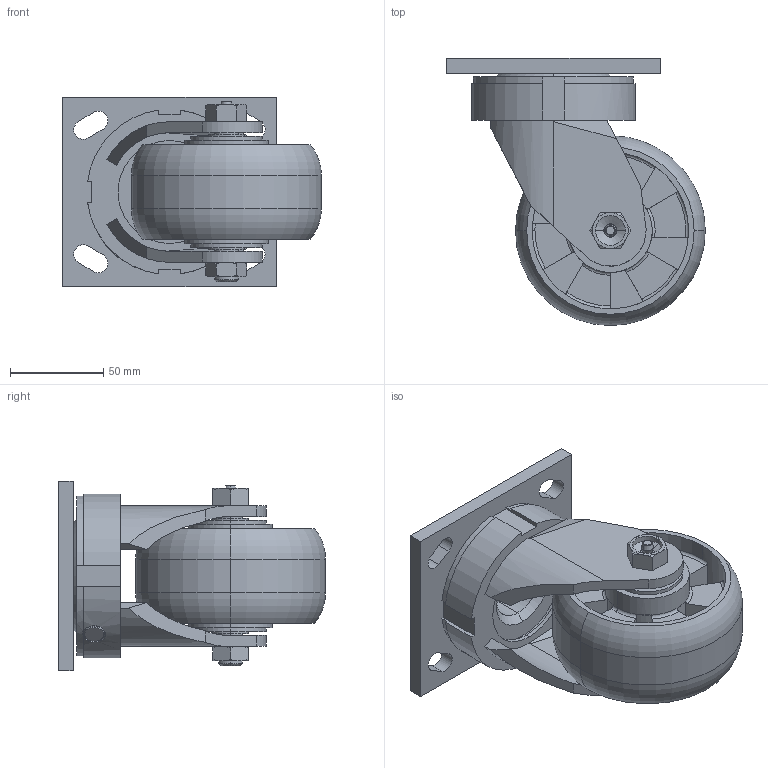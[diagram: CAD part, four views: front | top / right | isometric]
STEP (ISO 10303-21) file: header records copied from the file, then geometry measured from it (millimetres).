
FILE_DESCRIPTION (( 'STEP AP203' ), '1' );
FILE_NAME ('4寸抗冲击不带刹车.STEP', '2023-03-06T06:03:55', ( 'amidn' ), ( '' ), 'SwSTEP 2.0', 'SolidWorks 2018', '' );
FILE_SCHEMA (( 'CONFIG_CONTROL_DESIGN' ));
Length unit declared in the file: millimetre
Products named in the file (9): 4寸抗冲击不带刹车; _50116.03^4.04189.539(2)_4.04189.539; _52000.08^4.04189.539(2)_4.04189.539; _5.00004.539 (T)^4.04189.539(2)_4.04189.539; _SK-9905X78-4-F^4.04189.539(2)_4.04189.539; _55000.23^4.04189.539(2)_4.04189.539; _05953.76(2.96)^4.04189.539(2)_4.04189.539; _SK-9905X63-1P^4.04189.539(2)_4.04189.539; 4.04189.539(2)^4.04189.539
Assembly tree (9 placements, depth 3):
  4寸抗冲击不带刹车
    4.04189.539(2)^4.04189.539
      _SK-9905X63-1P^4.04189.539(2)_4.04189.539
      _SK-9905X78-4-F^4.04189.539(2)_4.04189.539
      _05953.76(2.96)^4.04189.539(2)_4.04189.539
      _5.00004.539 (T)^4.04189.539(2)_4.04189.539
      _52000.08^4.04189.539(2)_4.04189.539
      _55000.23^4.04189.539(2)_4.04189.539
      _50116.03^4.04189.539(2)_4.04189.539  x2
Bounding box: 138.43 x 142.88 x 101.6 mm (x, y, z)
Volume: 493653.3 mm3; surface area: 160865.1 mm2
Topology: 8 solids, 9 shells, 345 faces, 848 edges, 534 vertices
Faces by surface type: plane 160, cylinder 102, cone 43, torus 40
Entity records: 11705 total; most frequent: CARTESIAN_POINT 2590, DIRECTION 1803, ORIENTED_EDGE 1656, EDGE_CURVE 828, AXIS2_PLACEMENT_3D 706, VERTEX_POINT 522, LINE 391, VECTOR 391
